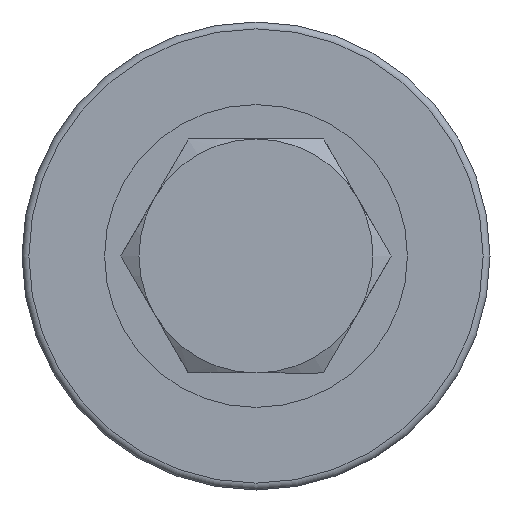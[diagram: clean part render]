
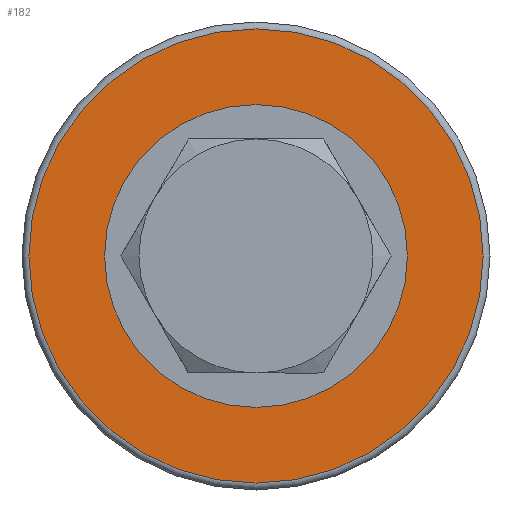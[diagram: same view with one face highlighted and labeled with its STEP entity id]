
A CAD part, front view. The second image highlights one B-rep face of the part: STEP entity #182.
In plain terms, the highlighted planar face has unit normal (0, -1, 0).
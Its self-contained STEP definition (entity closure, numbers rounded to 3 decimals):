
#182=ADVANCED_FACE('',(#249,#250),#251,.F.);
#249=FACE_OUTER_BOUND('',#373,.T.);
#250=FACE_BOUND('',#374,.T.);
#251=PLANE('',#375);
#373=EDGE_LOOP('',(#553));
#374=EDGE_LOOP('',(#554));
#375=AXIS2_PLACEMENT_3D('',#555,#556,#557);
#553=ORIENTED_EDGE('',*,*,#854,.T.);
#554=ORIENTED_EDGE('',*,*,#834,.F.);
#555=CARTESIAN_POINT('',(-16.5,-22.,0.));
#556=DIRECTION('',(0.0,1.0,0.0));
#557=DIRECTION('',(0.0,0.0,1.0));
#834=EDGE_CURVE('',#943,#943,#944,.T.);
#854=EDGE_CURVE('',#977,#977,#978,.T.);
#943=VERTEX_POINT('',#1137);
#944=CIRCLE('',#1138,11.0);
#977=VERTEX_POINT('',#1189);
#978=CIRCLE('',#1190,16.5);
#1137=CARTESIAN_POINT('',(0.,-22.,-11.0));
#1138=AXIS2_PLACEMENT_3D('',#1436,#1437,#1438);
#1189=CARTESIAN_POINT('',(0.0,-22.,-16.5));
#1190=AXIS2_PLACEMENT_3D('',#1460,#1461,#1462);
#1436=CARTESIAN_POINT('',(0.,-22.,0.));
#1437=DIRECTION('',(0.0,-1.0,0.0));
#1438=DIRECTION('',(0.0,0.0,-1.0));
#1460=CARTESIAN_POINT('',(0.0,-22.,0.));
#1461=DIRECTION('',(0.0,-1.0,0.0));
#1462=DIRECTION('',(0.0,0.0,-1.0));
